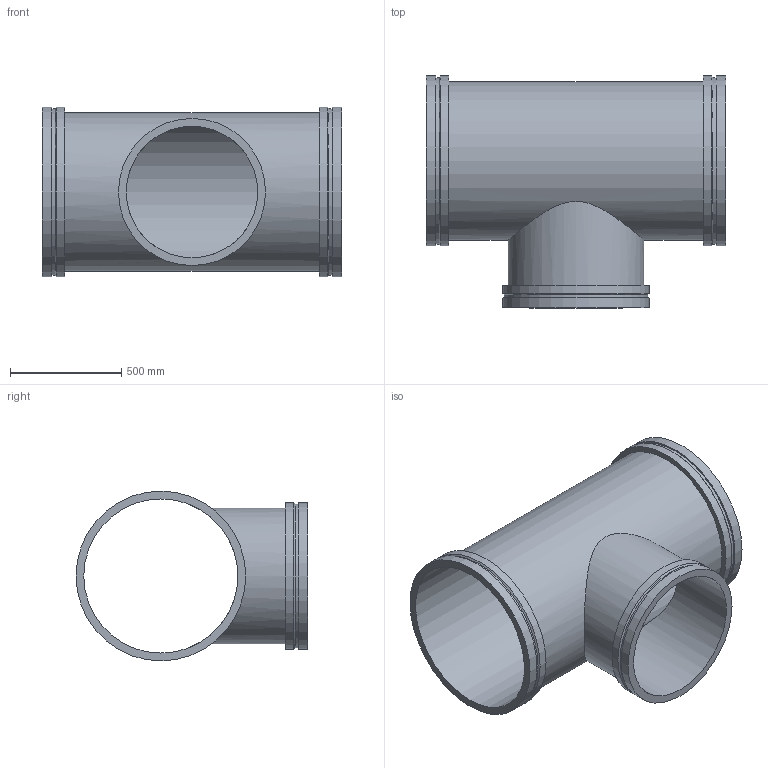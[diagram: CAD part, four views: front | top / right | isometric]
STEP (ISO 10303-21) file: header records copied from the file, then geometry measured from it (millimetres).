
FILE_DESCRIPTION(/* description */ ('VIC REDUCING TEE No W025 VR','CAx-IF Rec.Pracs.---Representation and Presentation of Product Manufacturing Information (PMI)---4.0---2014-10-13'),/* implementation_level */ '2;1');
FILE_NAME(/* name */ 'C:\Users\kkamble\AppData\Roaming\Autodesk\ApplicationPlugins\Back Up\Victaulic_Vic-Ring_Tee Reducing_No W25 VR (AGR)\Victaulic_Vic-Ring_Tee Reducing_No W25 VR (AGR)_28.0x24.0 (700x600).stp',/* time_stamp */ '2020-09-10T11:54:00+05:00',/* author */ ('mchristi'),/* organization */ ('Victaulic'),/* preprocessor_version */ 'ST-DEVELOPER v17.2',/* originating_system */ 'Autodesk Inventor 2019',/* authorisation */ '');
FILE_SCHEMA (('AP242_MANAGED_MODEL_BASED_3D_ENGINEERING_MIM_LF { 1 0 10303 442 1 1 4 }'));
Length unit declared in the file: inch
Products named in the file (1): W25 VR-28.0x24.0
Bounding box: 1346.2 x 1041.4 x 762 mm (x, y, z)
Volume: 48457123.2 mm3; surface area: 7268124.8 mm2
Topology: 1 solids, 1 shells, 25 faces, 68 edges, 52 vertices
Faces by surface type: cylinder 13, plane 9, cone 3
Full cylindrical faces by diameter (mm): 590.55 x1, 609.6 x1, 645.922 x1, 660.4 x2, 692.15 x1, 711.2 x1, 747.522 x2, 762 x4
Entity records: 1267 total; most frequent: CARTESIAN_POINT 423, DIRECTION 190, ORIENTED_EDGE 136, AXIS2_PLACEMENT_3D 87, EDGE_CURVE 68, VERTEX_POINT 52, CIRCLE 48, EDGE_LOOP 36
